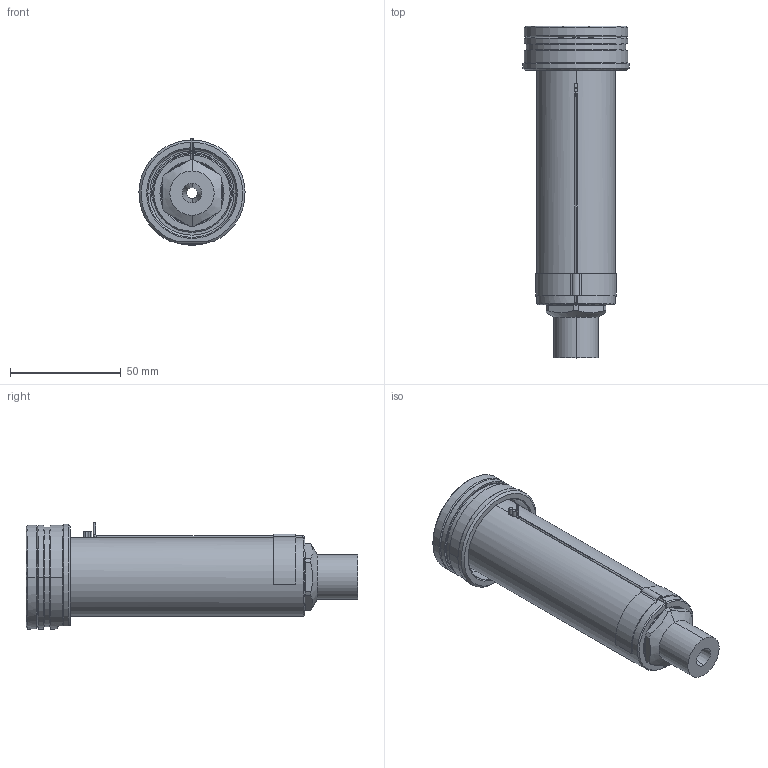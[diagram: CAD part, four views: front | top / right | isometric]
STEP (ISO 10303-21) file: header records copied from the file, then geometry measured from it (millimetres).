
FILE_DESCRIPTION((''),'2;1');
FILE_NAME('EO16_VG-ST_ESG_120_SW','2024-02-19T12:57:47',('sundharh'),(''),'CREO PARAMETRIC BY PTC INC, 2023154','CREO PARAMETRIC BY PTC INC, 2023154','');
FILE_SCHEMA(('CONFIG_CONTROL_DESIGN'));
Length unit declared in the file: millimetre
Products named in the file (1): EO16_VG-ST_ESG_120_SW
Bounding box: 47.97 x 150 x 48 mm (x, y, z)
Volume: 119962.4 mm3; surface area: 30748.3 mm2
Topology: 1 solids, 1 shells, 169 faces, 418 edges, 256 vertices
Faces by surface type: cylinder 64, plane 45, cone 35, torus 14, bspline 9, sphere 2
Entity records: 5790 total; most frequent: CARTESIAN_POINT 1704, DIRECTION 906, ORIENTED_EDGE 824, EDGE_CURVE 412, AXIS2_PLACEMENT_3D 374, VERTEX_POINT 256, CIRCLE 214, EDGE_LOOP 184
